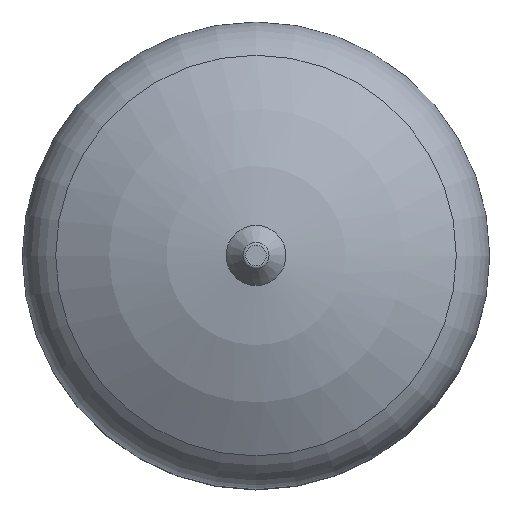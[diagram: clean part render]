
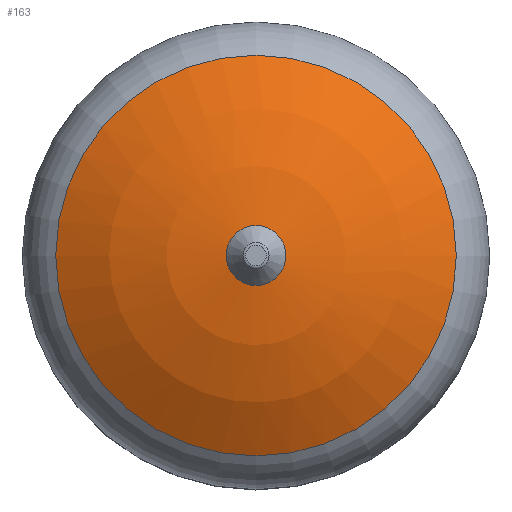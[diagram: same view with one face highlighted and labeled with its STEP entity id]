
A CAD part, top view. The second image highlights one B-rep face of the part: STEP entity #163.
In plain terms, the highlighted spherical face has radius 312 mm.
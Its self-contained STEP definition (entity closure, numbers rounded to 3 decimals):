
#163=ADVANCED_FACE('',(#813,#815),#817,.T.);
#813=FACE_BOUND('',#814,.T.);
#814=EDGE_LOOP('',(#1213,#1214));
#815=FACE_BOUND('',#816,.T.);
#816=EDGE_LOOP('',(#1215,#1216));
#817=SPHERICAL_SURFACE('',#818,312.);
#818=AXIS2_PLACEMENT_3D('',#819,#820,#821);
#819=CARTESIAN_POINT('',(0.,0.,190.193));
#820=DIRECTION('',(0.,0.,1.));
#821=DIRECTION('',(1.,0.,0.));
#1213=ORIENTED_EDGE('',*,*,#1410,.T.);
#1214=ORIENTED_EDGE('',*,*,#1409,.T.);
#1215=ORIENTED_EDGE('',*,*,#1411,.F.);
#1216=ORIENTED_EDGE('',*,*,#1412,.F.);
#1409=EDGE_CURVE('',#1745,#1746,#1747,.T.);
#1410=EDGE_CURVE('',#1746,#1745,#1748,.T.);
#1411=EDGE_CURVE('',#1749,#1750,#1751,.T.);
#1412=EDGE_CURVE('',#1750,#1749,#1752,.T.);
#1745=VERTEX_POINT('',#2551);
#1746=VERTEX_POINT('',#2552);
#1747=CIRCLE('',#2553,167.143);
#1748=CIRCLE('',#2557,167.143);
#1749=VERTEX_POINT('',#2561);
#1750=VERTEX_POINT('',#2562);
#1751=CIRCLE('',#2563,25.003);
#1752=CIRCLE('',#2567,25.003);
#2551=CARTESIAN_POINT('',(-167.143,0.,453.646));
#2552=CARTESIAN_POINT('',(167.143,0.,453.646));
#2553=AXIS2_PLACEMENT_3D('',#2554,#2555,#2556);
#2554=CARTESIAN_POINT('',(0.,0.,453.646));
#2555=DIRECTION('',(0.,0.,1.));
#2556=DIRECTION('',(-1.,0.,0.));
#2557=AXIS2_PLACEMENT_3D('',#2558,#2559,#2560);
#2558=CARTESIAN_POINT('',(0.,0.,453.646));
#2559=DIRECTION('',(0.,0.,1.));
#2560=DIRECTION('',(1.,0.,0.));
#2561=CARTESIAN_POINT('',(-25.003,0.,501.19));
#2562=CARTESIAN_POINT('',(25.003,0.,501.19));
#2563=AXIS2_PLACEMENT_3D('',#2564,#2565,#2566);
#2564=CARTESIAN_POINT('',(0.,0.,501.19));
#2565=DIRECTION('',(0.,0.,1.));
#2566=DIRECTION('',(-1.,0.,0.));
#2567=AXIS2_PLACEMENT_3D('',#2568,#2569,#2570);
#2568=CARTESIAN_POINT('',(0.,0.,501.19));
#2569=DIRECTION('',(0.,0.,1.));
#2570=DIRECTION('',(1.,0.,0.));
